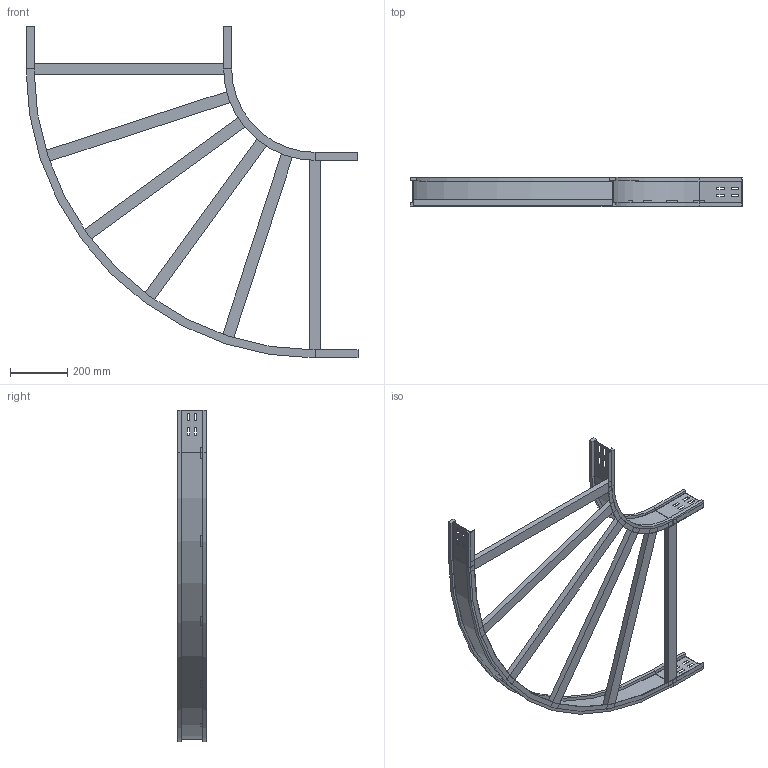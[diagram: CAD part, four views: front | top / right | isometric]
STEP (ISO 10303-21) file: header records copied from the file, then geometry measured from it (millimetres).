
FILE_DESCRIPTION (( 'STEP AP214' ), '1' );
FILE_NAME ('10S3D700.step', '2025-02-21T16:09:08', ( '' ), ( '' ), 'SwSTEP 2.0', 'SolidWorks 2023', '' );
FILE_SCHEMA (( 'AUTOMOTIVE_DESIGN' ));
Length unit declared in the file: millimetre
Products named in the file (4): 10S3D700; TRAVERSINO_700; LONGH.INTERNO 90°_H100_R300; LONGH.ESTERNO 90°_H100_R300+700
Assembly tree (8 placements, depth 2):
  10S3D700
    LONGH.INTERNO 90°_H100_R300
    LONGH.ESTERNO 90°_H100_R300+700
    TRAVERSINO_700  x6
Bounding box: 1159 x 100 x 1159 mm (x, y, z)
Volume: 4782959.2 mm3; surface area: 1296979.5 mm2
Topology: 8 solids, 8 shells, 176 faces, 432 edges, 272 vertices
Faces by surface type: plane 164, cylinder 12
Entity records: 4501 total; most frequent: CARTESIAN_POINT 761, ORIENTED_EDGE 744, DIRECTION 710, EDGE_CURVE 372, LINE 348, VECTOR 348, VERTEX_POINT 232, AXIS2_PLACEMENT_3D 181
